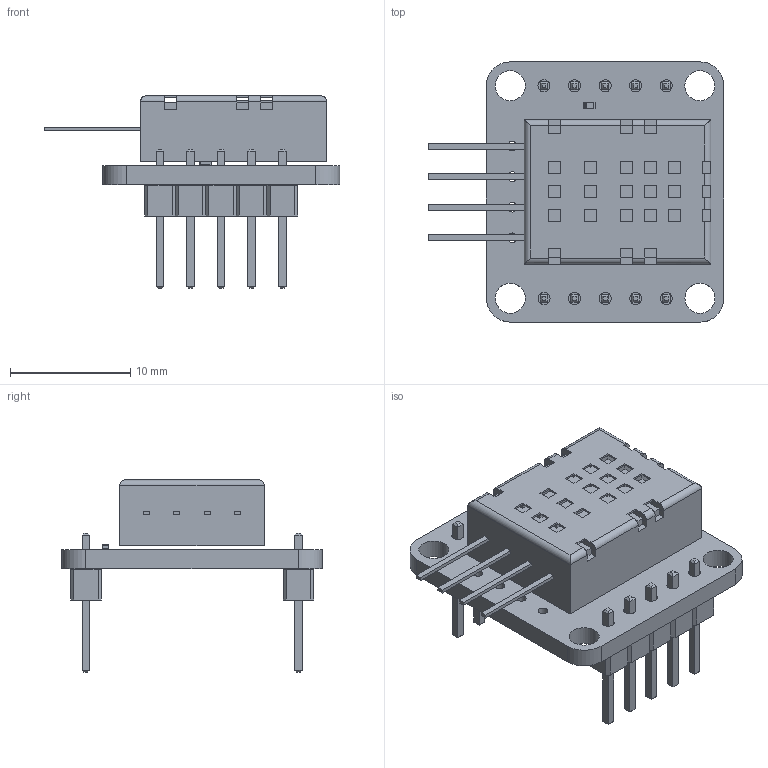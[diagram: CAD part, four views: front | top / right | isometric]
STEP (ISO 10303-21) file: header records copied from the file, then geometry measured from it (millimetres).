
FILE_DESCRIPTION(('KiCad electronic assembly'),'2;1');
FILE_NAME('STP_AXM0011.step','2024-11-12T16:18:07',('Pcbnew'),('Kicad'), 'Open CASCADE STEP processor 7.8','KiCad to STEP converter','Unknown' );
FILE_SCHEMA(('AUTOMOTIVE_DESIGN { 1 0 10303 214 1 1 1 1 }'));
Length unit declared in the file: millimetre
Products named in the file (8): STP_AXM0011 1; R_0402_1005Metric; Aosong_DHT11_5.5x12.0_P2.54mm; PinHeader_1x05_P2.54mm_Vertical; PinHeader_1x05_P254mm_Vertical; DHT11_PCB
Assembly tree (8 placements, depth 3):
  STP_AXM0011 1
    R_0402_1005Metric
      R_0402_1005Metric
    Aosong_DHT11_5.5x12.0_P2.54mm
      Aosong_DHT11_5.5x12.0_P2.54mm
    PinHeader_1x05_P2.54mm_Vertical  x2
      PinHeader_1x05_P254mm_Vertical
    DHT11_PCB
Bounding box: 24.57 x 21.64 x 15.99 mm (x, y, z)
Volume: 1823.1 mm3; surface area: 2404.6 mm2
Topology: 5 solids, 5 shells, 591 faces, 1498 edges, 904 vertices
Faces by surface type: plane 548, cylinder 43
Full cylindrical faces by diameter (mm): 0.8 x4, 1 x10, 2.5 x4
Entity records: 17074 total; most frequent: ORIENTED_EDGE 2404, CARTESIAN_POINT 2398, DIRECTION 2254, EDGE_CURVE 1202, LINE 1102, VECTOR 1102, VERTEX_POINT 720, AXIS2_PLACEMENT_3D 576
